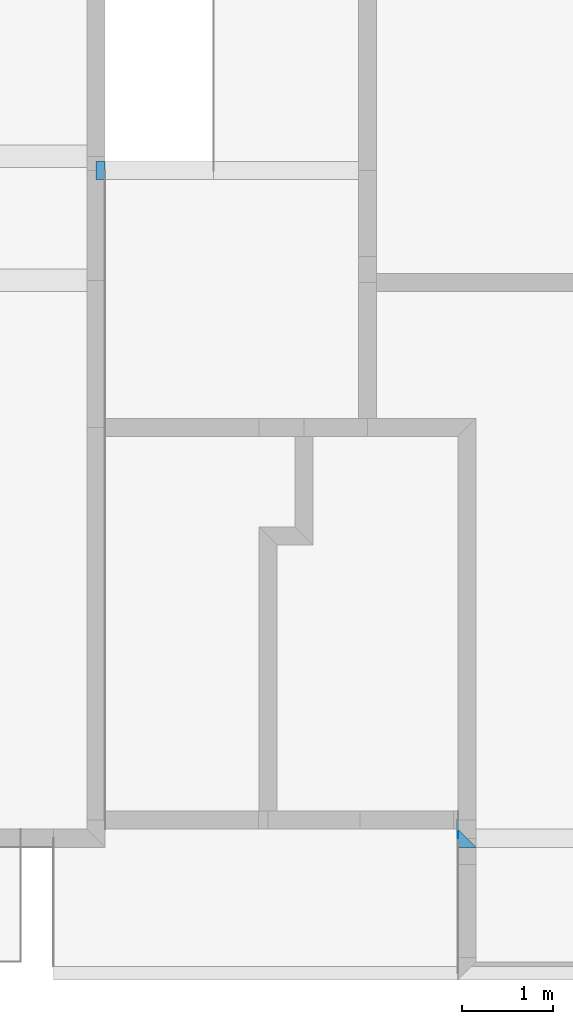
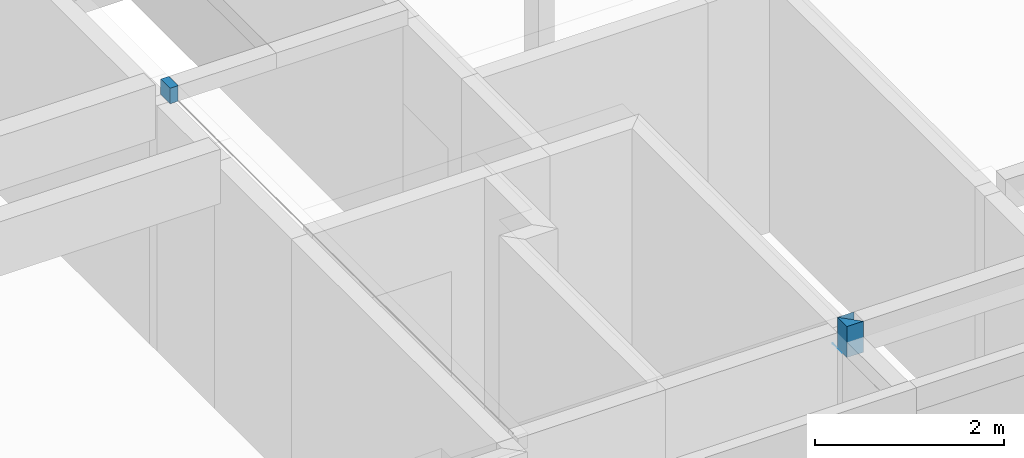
# One storey, part 7 of 17: 3 beams.
"""IFC2X3 building model written with IfcOpenShell, lengths in metres."""

from ifc_helpers import new_model, si_unit, direction, frame, origin_with_axes, place, context, subcontext, project, spatial, polyline, outline, extrude, material, type_object, element, save


model = new_model("IFC2X3")

# Units and contexts
model_context = context("Model", 3, precision=0.0001, world=origin_with_axes(), true_north=direction((0.0, 1.0)))
plan_context = context("Plan", 2, precision=0.0001, world=origin_with_axes(), true_north=direction((0.0, 1.0)))
body_context = subcontext(model_context, "Body", "Model", "MODEL_VIEW")
ifc_project = project(units=[si_unit("MASSUNIT", "GRAM", prefix="KILO"), si_unit("AREAUNIT", "SQUARE_METRE"), si_unit("LENGTHUNIT", "METRE"), si_unit("VOLUMEUNIT", "CUBIC_METRE")], contexts=[plan_context, model_context])

# Site, building, storey
site_placement = place(None, origin_with_axes())
site = spatial("IfcSite", under=ifc_project, at=site_placement, Name="$", CompositionType="ELEMENT")
building_placement = place(site_placement, origin_with_axes())
building = spatial("IfcBuilding", under=site, at=building_placement, Name="Classeur ENS Ensemble", CompositionType="ELEMENT")
storey_placement = place(building_placement, frame((-20.30778888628, -1.812671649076, 0.0), z_axis=(0.0, 0.0, 1.0), x_axis=(1.0, 0.0, 0.0)))
storey = spatial("IfcBuildingStorey", under=building, at=storey_placement, Name="001 RdC", CompositionType="ELEMENT", Elevation=0.0)

# Beams
ifc_material = material(Name="Default material")
beam_type = type_object("IfcBeamType", PredefinedType="BEAM")
beam_1_placement = place(storey_placement, frame((31.38329531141, -4.191140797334, 3.099999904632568), z_axis=(0.0, 0.0, 1.0), x_axis=(1.0, 0.0, 0.0)))
element("IfcBeam", 1, at=beam_1_placement, inside=storey, type_object=beam_type, material=ifc_material, Name="poutre BA", context=body_context, shape_type="SweptSolid", held_by="IfcProductRepresentation", body=[
    extrude(outline(polyline([(0.0, 0.1000000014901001), (0.0, 0.1000000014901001), (0.0, 0.1000000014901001), (0.09999999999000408, 0.1000000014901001), (0.09999999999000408, 0.1000000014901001), (0.09999999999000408, 0.1000000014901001), (0.09999999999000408, -0.1000000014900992), (0.09999999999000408, -0.1000000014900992), (0.09999999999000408, -0.1000000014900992), (0.0, -0.1000000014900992), (0.0, -0.1000000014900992), (0.0, -0.1000000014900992), (0.0, 0.1000000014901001)])), origin_with_axes(), (0.0, 0.0, 1.0), 0.2000000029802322),
])
beam_2_placement = place(storey_placement, frame((35.3832953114, -11.56732835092, 2.900000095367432), z_axis=(0.0, 0.0, 1.0), x_axis=(1.0, 0.0, 0.0)))
element("IfcBeam", 2, at=beam_2_placement, inside=storey, type_object=beam_type, material=ifc_material, Name="poutre BA 20 x 40", context=body_context, shape_type="SweptSolid", held_by="IfcProductRepresentation", body=[
    extrude(outline(polyline([(0.0, 0.1000000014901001), (0.0, 0.1000000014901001), (0.0, 0.1000000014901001), (0.2000000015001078, 0.1000000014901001), (0.2000000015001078, 0.1000000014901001), (-1.480096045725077e-09, 0.1000000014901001), (-1.480096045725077e-09, -0.1000000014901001), (0.2000000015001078, -0.1000000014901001), (0.2000000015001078, -0.1000000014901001), (0.0, -0.1000000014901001), (0.0, -0.1000000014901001), (0.0, -0.1000000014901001), (0.0, 0.1000000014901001)])), origin_with_axes(), (0.0, 0.0, 1.0), 0.4000000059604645),
])
beam_3_placement = place(storey_placement, frame((35.3832953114, -11.56732835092, 2.900000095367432), z_axis=(0.0, 0.0, 1.0), x_axis=(0.0, 1.0, 0.0)))
element("IfcBeam", 3, at=beam_3_placement, inside=storey, type_object=beam_type, material=ifc_material, Name="poutre fictive 290", context=body_context, shape_type="SweptSolid", held_by="IfcProductRepresentation", body=[
    extrude(outline(polyline([(0.0, 0.0009999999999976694), (0.0, 0.0009999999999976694), (0.0, 0.0009999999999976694), (0.1999999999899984, 0.0009999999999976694), (0.1999999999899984, 0.0009999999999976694), (0.1999999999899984, 0.0009999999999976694), (0.1999999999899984, -0.0009999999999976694), (0.1999999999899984, -0.0009999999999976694), (0.1999999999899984, -0.0009999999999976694), (0.0, -0.0009999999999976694), (0.0, -0.0009999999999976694), (0.0, -0.0009999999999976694), (0.0, 0.0009999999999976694)])), origin_with_axes(), (0.0, 0.0, 1.0), 0.001),
])

save(model, "model.ifc")
